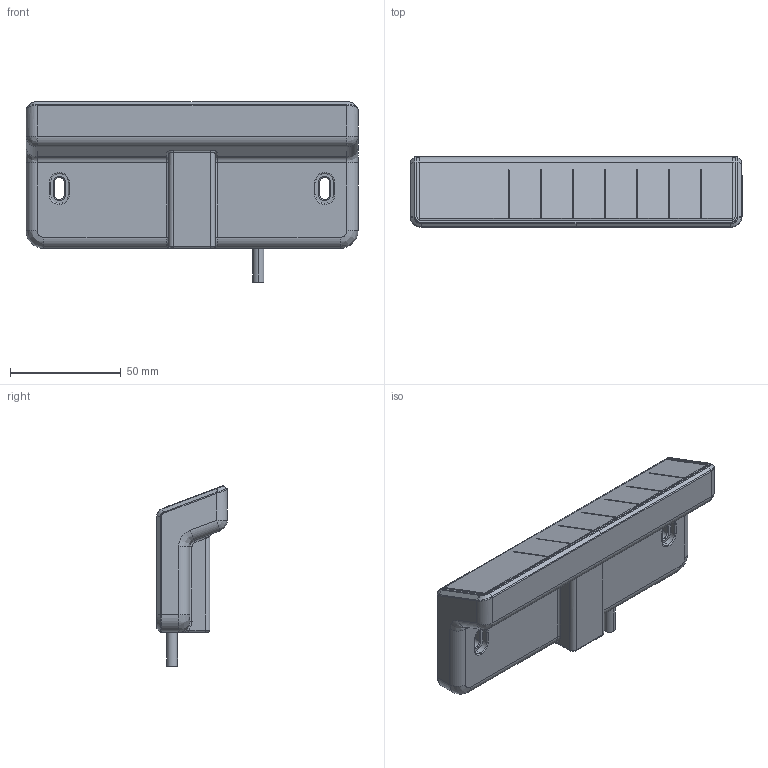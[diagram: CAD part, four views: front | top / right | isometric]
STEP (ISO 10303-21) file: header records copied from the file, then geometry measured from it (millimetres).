
FILE_DESCRIPTION (( 'STEP AP203' ), '1' );
FILE_NAME ('產品三維模型圖-TDH6PR-A.STEP', '2018-04-16T05:40:01', ( '' ), ( '' ), 'SwSTEP 2.0', 'SolidWorks 2015', '' );
FILE_SCHEMA (( 'CONFIG_CONTROL_DESIGN' ));
Length unit declared in the file: millimetre
Products named in the file (1): 產品三維模型圖-TDH6PR-A
Bounding box: 150 x 32 x 81.48 mm (x, y, z)
Volume: 182056.2 mm3; surface area: 56422.8 mm2
Topology: 9 solids, 9 shells, 477 faces, 1202 edges, 748 vertices
Faces by surface type: plane 185, cylinder 113, cone 78, bspline 65, torus 24, sphere 12
Entity records: 16866 total; most frequent: CARTESIAN_POINT 5713, ORIENTED_EDGE 2396, DIRECTION 2266, EDGE_CURVE 1198, AXIS2_PLACEMENT_3D 862, VERTEX_POINT 748, LINE 542, VECTOR 542
